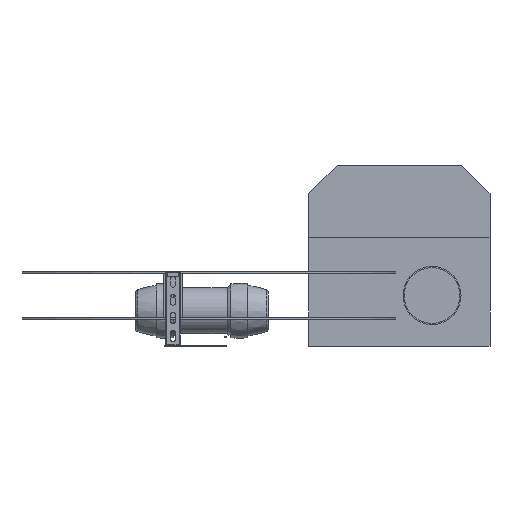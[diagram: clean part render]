
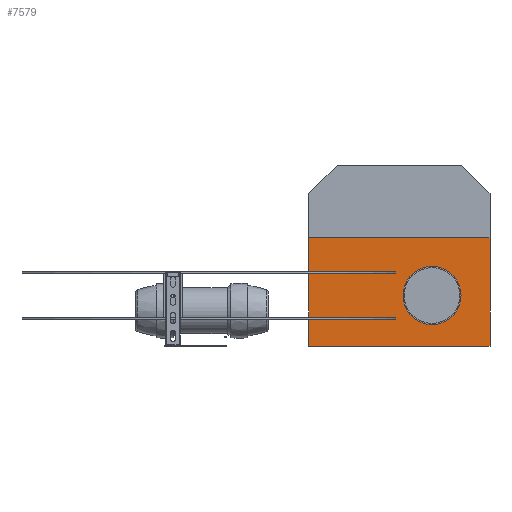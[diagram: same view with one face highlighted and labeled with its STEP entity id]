
A CAD part, front view. The second image highlights one B-rep face of the part: STEP entity #7579.
In plain terms, the highlighted planar face has unit normal (0, -1, 0).
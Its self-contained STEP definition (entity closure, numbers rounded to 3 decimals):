
#452=FACE_BOUND('',#1250,.T.);
#529=PLANE('',#8342);
#810=FACE_OUTER_BOUND('',#1249,.T.);
#1249=EDGE_LOOP('',(#5305,#5306,#5307,#5308));
#1250=EDGE_LOOP('',(#5309));
#1762=LINE('',#10846,#2529);
#1763=LINE('',#10848,#2530);
#1764=LINE('',#10850,#2531);
#1765=LINE('',#10851,#2532);
#2529=VECTOR('',#8932,10.);
#2530=VECTOR('',#8933,10.);
#2531=VECTOR('',#8934,10.);
#2532=VECTOR('',#8935,10.);
#3297=CIRCLE('',#8340,80.);
#3465=VERTEX_POINT('',#10839);
#3466=VERTEX_POINT('',#10844);
#3467=VERTEX_POINT('',#10845);
#3468=VERTEX_POINT('',#10847);
#3469=VERTEX_POINT('',#10849);
#4193=EDGE_CURVE('',#3465,#3465,#3297,.T.);
#4194=EDGE_CURVE('',#3466,#3467,#1762,.T.);
#4195=EDGE_CURVE('',#3468,#3466,#1763,.T.);
#4196=EDGE_CURVE('',#3469,#3468,#1764,.T.);
#4197=EDGE_CURVE('',#3467,#3469,#1765,.T.);
#5305=ORIENTED_EDGE('',*,*,#4194,.F.);
#5306=ORIENTED_EDGE('',*,*,#4195,.F.);
#5307=ORIENTED_EDGE('',*,*,#4196,.F.);
#5308=ORIENTED_EDGE('',*,*,#4197,.F.);
#5309=ORIENTED_EDGE('',*,*,#4193,.T.);
#7579=ADVANCED_FACE('',(#810,#452),#529,.F.);
#8340=AXIS2_PLACEMENT_3D('',#10841,#8926,#8927);
#8342=AXIS2_PLACEMENT_3D('',#10843,#8930,#8931);
#8926=DIRECTION('center_axis',(0.,1.,0.));
#8927=DIRECTION('ref_axis',(1.,0.,0.));
#8930=DIRECTION('center_axis',(0.,1.,0.));
#8931=DIRECTION('ref_axis',(0.,0.,1.));
#8932=DIRECTION('',(1.,0.,0.));
#8933=DIRECTION('',(0.,0.,1.));
#8934=DIRECTION('',(-1.,0.,0.));
#8935=DIRECTION('',(0.,0.,-1.));
#10839=CARTESIAN_POINT('',(60.,0.,-90.));
#10841=CARTESIAN_POINT('Origin',(140.,0.,-90.));
#10843=CARTESIAN_POINT('Origin',(150.,0.,0.));
#10844=CARTESIAN_POINT('',(0.,0.,250.));
#10845=CARTESIAN_POINT('',(300.,0.,250.));
#10846=CARTESIAN_POINT('',(0.,0.,250.));
#10847=CARTESIAN_POINT('',(0.,0.,-250.));
#10848=CARTESIAN_POINT('',(0.,0.,-250.));
#10849=CARTESIAN_POINT('',(300.,0.,-250.));
#10850=CARTESIAN_POINT('',(300.,0.,-250.));
#10851=CARTESIAN_POINT('',(300.,0.,250.));
